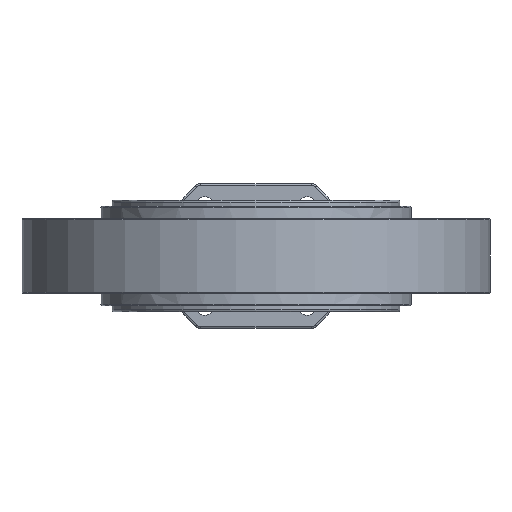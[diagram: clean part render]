
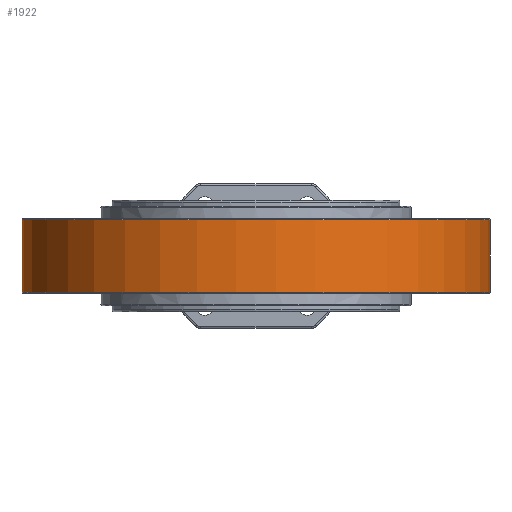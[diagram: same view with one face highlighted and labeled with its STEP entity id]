
A CAD part, front view. The second image highlights one B-rep face of the part: STEP entity #1922.
In plain terms, the highlighted cylindrical face has radius 113.25 mm (diameter 226.5 mm), a partial arc.
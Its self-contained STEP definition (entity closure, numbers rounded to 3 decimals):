
#1922=ADVANCED_FACE('',(#5518),#5520,.T.);
#5518=FACE_BOUND('',#5519,.T.);
#5519=EDGE_LOOP('',(#8856,#8857,#8858,#8859));
#5520=CYLINDRICAL_SURFACE('',#5521,113.25);
#5521=AXIS2_PLACEMENT_3D('',#5522,#5523,#5524);
#5522=CARTESIAN_POINT('',(0.,0.,0.));
#5523=DIRECTION('',(0.,0.,1.));
#5524=DIRECTION('',(0.,-1.,0.));
#8856=ORIENTED_EDGE('',*,*,#10421,.F.);
#8857=ORIENTED_EDGE('',*,*,#10418,.F.);
#8858=ORIENTED_EDGE('',*,*,#10343,.F.);
#8859=ORIENTED_EDGE('',*,*,#10511,.F.);
#10343=EDGE_CURVE('',#11723,#11726,#11727,.T.);
#10418=EDGE_CURVE('',#11726,#11848,#11850,.T.);
#10421=EDGE_CURVE('',#11848,#11853,#11854,.T.);
#10511=EDGE_CURVE('',#11853,#11723,#11998,.T.);
#11723=VERTEX_POINT('',#17946);
#11726=VERTEX_POINT('',#17955);
#11727=CIRCLE('',#17956,113.25);
#11848=VERTEX_POINT('',#19541);
#11850=LINE('',#19546,#19547);
#11853=VERTEX_POINT('',#19557);
#11854=CIRCLE('',#19558,113.25);
#11998=LINE('',#21418,#21419);
#17946=CARTESIAN_POINT('',(71.519,87.81,-17.5));
#17955=CARTESIAN_POINT('',(-71.519,87.81,-17.5));
#17956=AXIS2_PLACEMENT_3D('',#17957,#17958,#17959);
#17957=CARTESIAN_POINT('',(0.,0.,-17.5));
#17958=DIRECTION('',(0.,0.,-1.));
#17959=DIRECTION('',(0.632,0.775,0.));
#19541=CARTESIAN_POINT('',(-71.519,87.81,17.5));
#19546=CARTESIAN_POINT('',(-71.519,87.81,-17.5));
#19547=VECTOR('',#19548,1.);
#19548=DIRECTION('',(0.,0.,1.));
#19557=CARTESIAN_POINT('',(71.519,87.81,17.5));
#19558=AXIS2_PLACEMENT_3D('',#19559,#19560,#19561);
#19559=CARTESIAN_POINT('',(0.,0.,17.5));
#19560=DIRECTION('',(0.,0.,1.));
#19561=DIRECTION('',(-0.632,0.775,0.));
#21418=CARTESIAN_POINT('',(71.519,87.81,17.5));
#21419=VECTOR('',#21420,1.);
#21420=DIRECTION('',(0.,0.,-1.));
